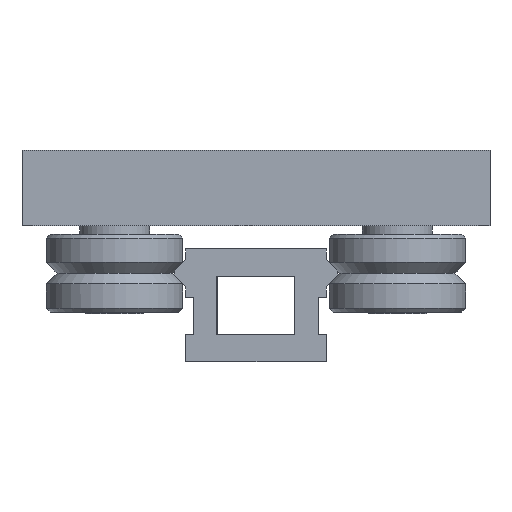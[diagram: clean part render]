
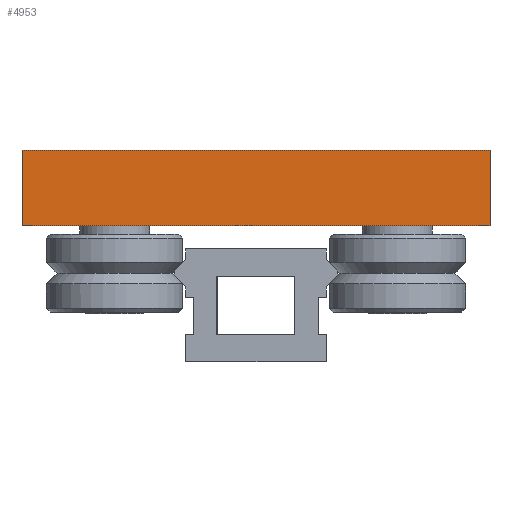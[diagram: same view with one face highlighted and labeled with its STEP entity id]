
A CAD part, left-side view. The second image highlights one B-rep face of the part: STEP entity #4953.
In plain terms, the highlighted planar face has unit normal (-1, 0, 0).
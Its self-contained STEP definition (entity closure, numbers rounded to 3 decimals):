
#4764=CARTESIAN_POINT('',(416.478,60.0,54.3));
#4765=VERTEX_POINT('',#4764);
#4772=CARTESIAN_POINT('',(416.478,-60.0,54.3));
#4773=VERTEX_POINT('',#4772);
#4774=CARTESIAN_POINT('',(416.478,60.0,54.3));
#4775=DIRECTION('',(0.0,-1.0,0.0));
#4776=VECTOR('',#4775,120.0);
#4777=LINE('',#4774,#4776);
#4778=EDGE_CURVE('',#4765,#4773,#4777,.T.);
#4832=CARTESIAN_POINT('',(416.478,60.0,34.9));
#4833=VERTEX_POINT('',#4832);
#4840=CARTESIAN_POINT('',(416.478,60.0,34.9));
#4841=DIRECTION('',(0.0,0.0,1.0));
#4842=VECTOR('',#4841,19.4);
#4843=LINE('',#4840,#4842);
#4844=EDGE_CURVE('',#4833,#4765,#4843,.T.);
#4872=CARTESIAN_POINT('',(416.478,-60.0,34.9));
#4873=VERTEX_POINT('',#4872);
#4880=CARTESIAN_POINT('',(416.478,-60.0,34.9));
#4881=DIRECTION('',(0.0,1.0,0.0));
#4882=VECTOR('',#4881,120.0);
#4883=LINE('',#4880,#4882);
#4884=EDGE_CURVE('',#4873,#4833,#4883,.T.);
#4932=CARTESIAN_POINT('',(416.478,-60.0,54.3));
#4933=DIRECTION('',(0.0,0.0,-1.0));
#4934=VECTOR('',#4933,19.4);
#4935=LINE('',#4932,#4934);
#4936=EDGE_CURVE('',#4773,#4873,#4935,.T.);
#4942=CARTESIAN_POINT('',(416.478,0.,44.6));
#4943=DIRECTION('',(1.0,0.0,0.0));
#4944=DIRECTION('',(0.0,0.0,-1.0));
#4945=AXIS2_PLACEMENT_3D('',#4942,#4943,#4944);
#4946=PLANE('',#4945);
#4947=ORIENTED_EDGE('',*,*,#4936,.F.);
#4948=ORIENTED_EDGE('',*,*,#4778,.F.);
#4949=ORIENTED_EDGE('',*,*,#4844,.F.);
#4950=ORIENTED_EDGE('',*,*,#4884,.F.);
#4951=EDGE_LOOP('',(#4947,#4948,#4949,#4950));
#4952=FACE_OUTER_BOUND('',#4951,.T.);
#4953=ADVANCED_FACE('',(#4952),#4946,.F.);
